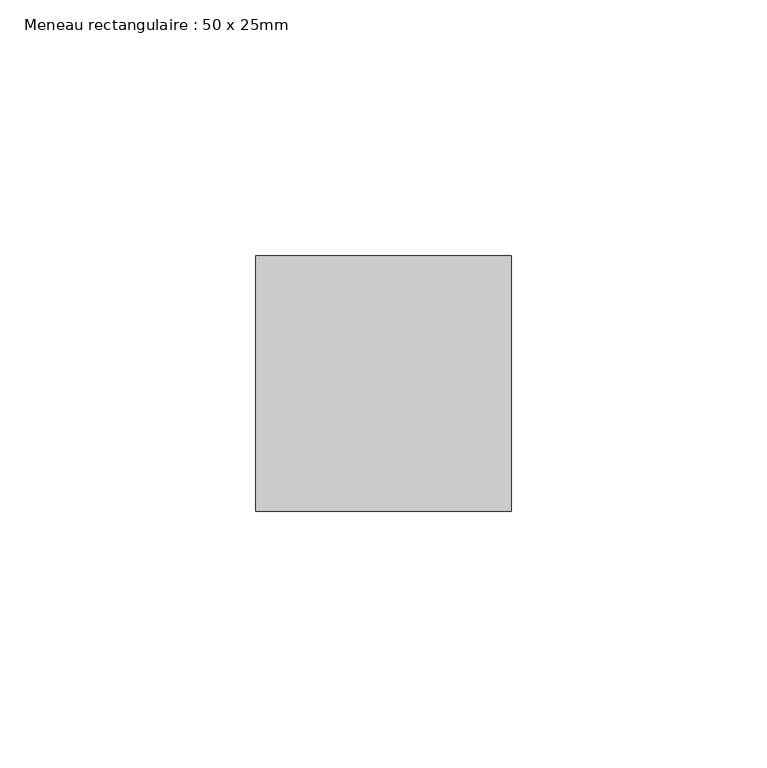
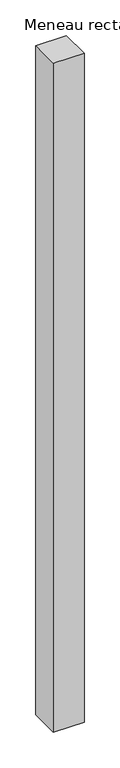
"""IFC4 building model written with IfcOpenShell, lengths in millimetres: member geometry, Meneau rectangulaire : 50 x 25mm."""

from ifc_helpers import new_model, si_unit, frame, origin, place, context, project, spatial, polyline, outline, extrude, source, transform, mapped, element, save


def meneau_rectangulaire_50_x_25mm_5b44a309(model_context):
    return source(origin(), model_context, "Body", "SweptSolid", [
        extrude(outline(polyline([(25.0, 0.0), (25.0, -50.0), (-25.0, -50.0), (-25.0, 0.0), (25.0, 0.0)])), frame((0.0, 0.0, -1149.0), z_axis=(0.0, 0.0, 1.0), x_axis=(1.0, 0.0, 0.0)), (0.0, 0.0, 1.0), 1149.0),
    ])


if __name__ == "__main__":
    model = new_model("IFC4")
    model_context = context("Model", 3, world=origin())
    ifc_project = project(units=[si_unit("LENGTHUNIT", "METRE", prefix="MILLI")], contexts=[model_context])
    site = spatial("IfcSite", under=ifc_project)
    building = spatial("IfcBuilding", under=site)
    placement = place(None, origin())
    meneau_rectangulaire_50_x_25mm_shape = meneau_rectangulaire_50_x_25mm_5b44a309(model_context)
    element("IfcMember", 1, ObjectType="Meneau rectangulaire : 50 x 25mm", at=placement, inside=building, context=model_context, shape_type="MappedRepresentation", body=[
        mapped(meneau_rectangulaire_50_x_25mm_shape, transform((0.0, 0.0, 0.0), x_axis=(1.0, 0.0, 0.0), y_axis=(0.0, 1.0, 0.0), z_axis=(0.0, 0.0, 1.0))),
    ])
    save(model, "model.ifc")
